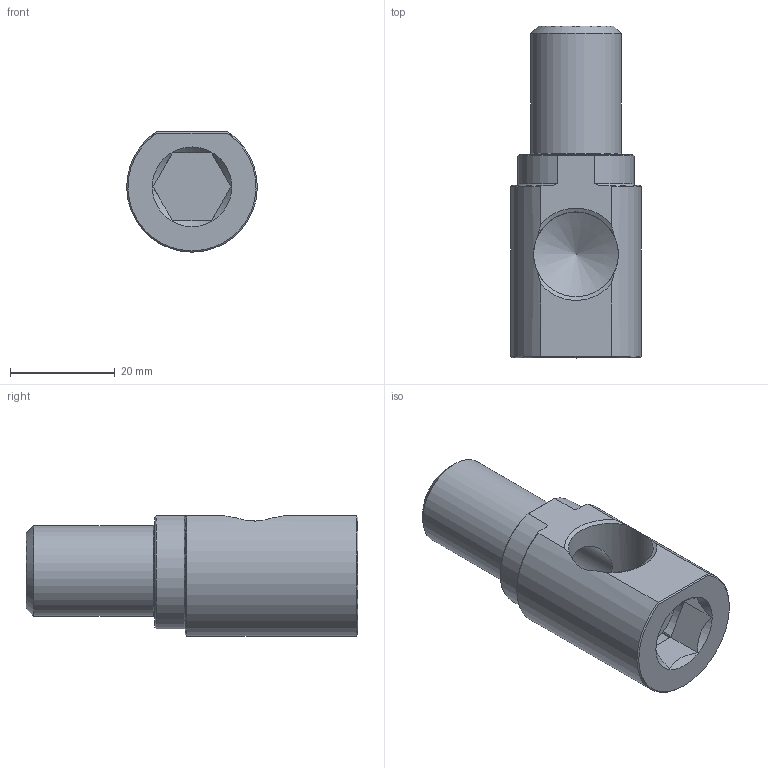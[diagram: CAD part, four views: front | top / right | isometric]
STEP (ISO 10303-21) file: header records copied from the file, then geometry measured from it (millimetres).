
FILE_DESCRIPTION(/* description */ (''),/* implementation_level */ '2;1');
FILE_NAME(/* name */ 'C:/Users/drich/Desktop/EKL38 X 2.5 v2.step',/* time_stamp */ '2019-11-18T14:41:18-06:00',/* author */ (''),/* organization */ (''),/* preprocessor_version */ 'ST-DEVELOPER v18',/* originating_system */ 'Autodesk Translation Framework v8.12.0.6',/* authorisation */ '');
FILE_SCHEMA (('AUTOMOTIVE_DESIGN { 1 0 10303 214 3 1 1 }'));
Length unit declared in the file: inch
Products named in the file (2): EKL38 X 2.5; EKL38 X 2-1/2
Assembly tree (1 placements, depth 2):
  EKL38 X 2.5
    EKL38 X 2-1/2
Bounding box: 25.01 x 63.5 x 23.03 mm (x, y, z)
Volume: 14415.3 mm3; surface area: 7616.3 mm2
Topology: 1 solids, 1 shells, 43 faces, 116 edges, 76 vertices
Faces by surface type: plane 21, cone 11, cylinder 11
Full cylindrical faces by diameter (mm): 11.887 x1, 16.231 x1, 17.328 x1
Entity records: 1463 total; most frequent: CARTESIAN_POINT 345, ORIENTED_EDGE 230, DIRECTION 218, EDGE_CURVE 115, AXIS2_PLACEMENT_3D 81, VERTEX_POINT 76, LINE 56, VECTOR 56
